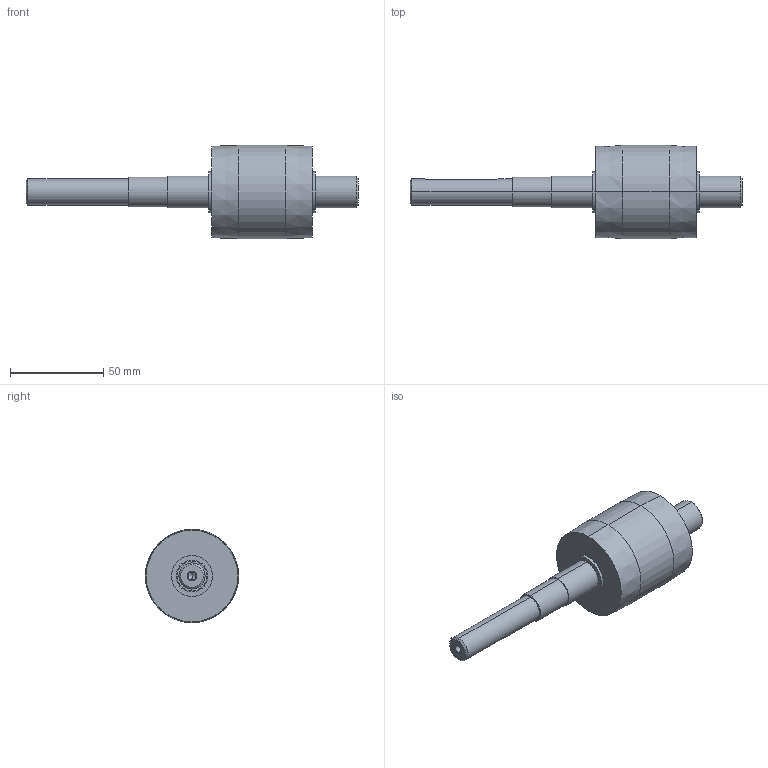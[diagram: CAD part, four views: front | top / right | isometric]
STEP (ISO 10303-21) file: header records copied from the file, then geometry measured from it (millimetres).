
FILE_DESCRIPTION (( 'STEP AP203' ), '1' );
FILE_NAME ('084.815.124.STEP', '2013-01-29T13:01:48', ( 'Alusic' ), ( 'Alusic' ), 'SwSTEP 2.0', 'SolidWorks 2011', '' );
FILE_SCHEMA (( 'CONFIG_CONTROL_DESIGN' ));
Length unit declared in the file: millimetre
Products named in the file (1): 084.815.124
Bounding box: 178 x 50 x 50 mm (x, y, z)
Volume: 128138.1 mm3; surface area: 18637.4 mm2
Topology: 1 solids, 1 shells, 41 faces, 84 edges, 51 vertices
Faces by surface type: cylinder 18, cone 12, plane 11
Entity records: 1207 total; most frequent: CARTESIAN_POINT 237, DIRECTION 208, ORIENTED_EDGE 164, AXIS2_PLACEMENT_3D 86, EDGE_CURVE 82, VERTEX_POINT 51, EDGE_LOOP 49, CIRCLE 44
